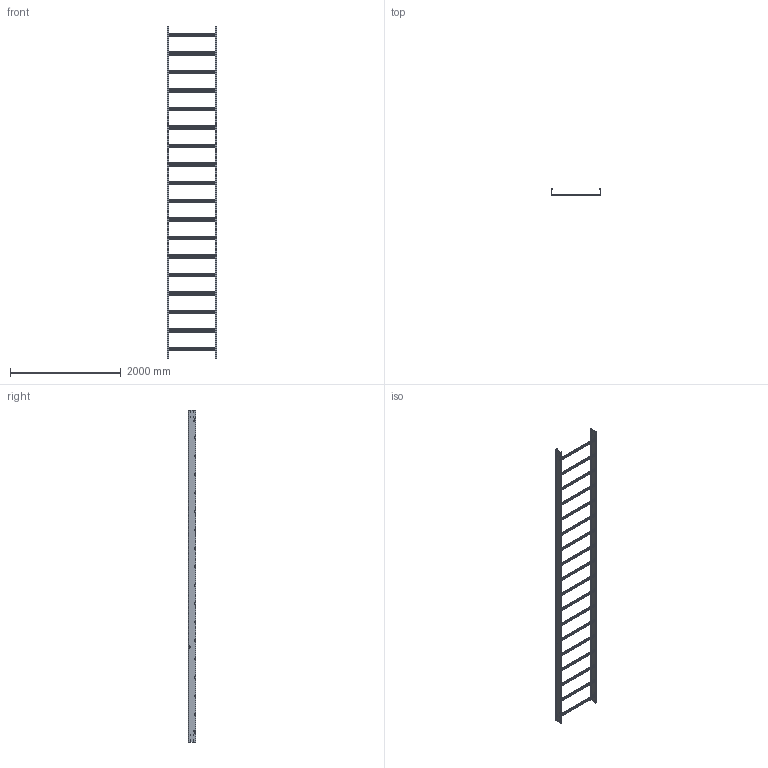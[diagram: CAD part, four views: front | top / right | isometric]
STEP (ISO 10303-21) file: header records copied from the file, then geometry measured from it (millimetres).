
FILE_DESCRIPTION (( 'STEP AP203' ), '1' );
FILE_NAME ('N3 LR 900 6m.STEP', '2024-08-29T04:05:25', ( '' ), ( '' ), 'SwSTEP 2.0', 'SolidWorks 2023', '' );
FILE_SCHEMA (( 'CONFIG_CONTROL_DESIGN' ));
Length unit declared in the file: millimetre
Products named in the file (3): N3 LR 900 6m; Ladder Rails_Nema 3Rev - 6m; Ladder Rung_Ladder Rung -  900mm
Assembly tree (20 placements, depth 2):
  N3 LR 900 6m
    Ladder Rails_Nema 3Rev - 6m  x2
    Ladder Rung_Ladder Rung -  900mm  x18
Bounding box: 903.2 x 131 x 6000 mm (x, y, z)
Volume: 5367044.2 mm3; surface area: 6866391.8 mm2
Topology: 20 solids, 20 shells, 3748 faces, 10434 edges, 6748 vertices
Faces by surface type: plane 3466, cylinder 196, bspline 86
Entity records: 15332 total; most frequent: CARTESIAN_POINT 4763, ORIENTED_EDGE 2114, DIRECTION 1771, EDGE_CURVE 1057, VECTOR 903, LINE 903, VERTEX_POINT 686, EDGE_LOOP 487
